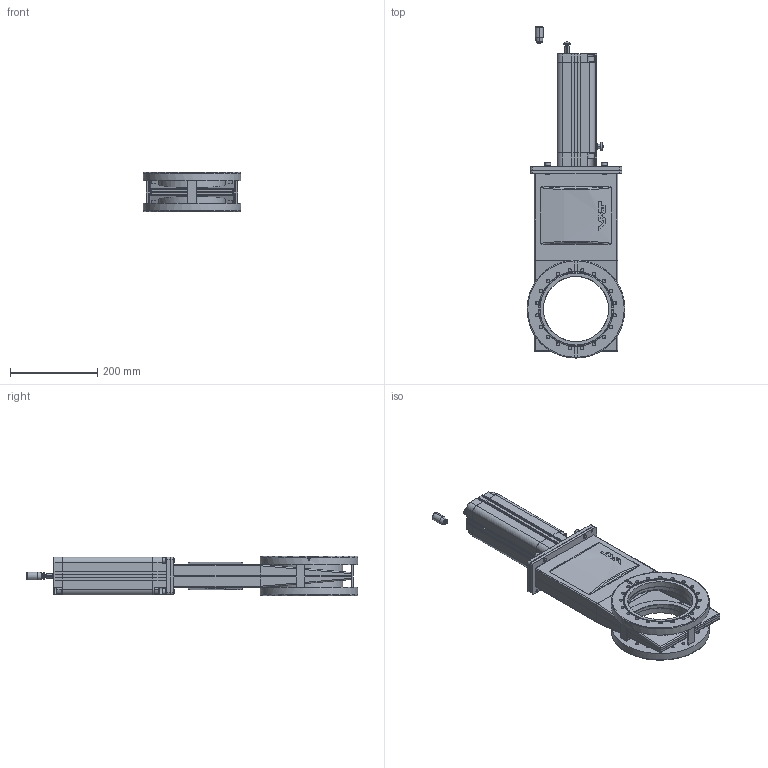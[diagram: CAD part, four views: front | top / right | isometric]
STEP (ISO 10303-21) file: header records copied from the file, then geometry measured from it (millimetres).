
FILE_DESCRIPTION(/* description */ (''),/* implementation_level */ '2;1');
FILE_NAME(/* name */ '1082409416_203.stp',/* time_stamp */ '2010-07-22T15:37:48+02:00',/* author */ (''),/* organization */ (''),/* preprocessor_version */ 'ST-DEVELOPER v11',/* originating_system */ 'SIEMENS UGS NX 6.0',/* authorisation */ '');
FILE_SCHEMA (('CONFIG_CONTROL_DESIGN'));
Length unit declared in the file: millimetre
Products named in the file (25): N-6092-118.1; 261336.1; n-6195-408; 228777; N-6066-009.1; 260826.1; N-6134-409.1; 332689.2; 259431.1; 261363.3; 261364.3; 261366.3; 255558.4; 309095.3; 261368.5; 301646.1; 307161.2; 261361.5; 261369.1; 309094.4; 255788.2; 255792.2; 255802.2; 261337.1; 309144.9
Assembly tree (38 placements, depth 3):
  309144.9
    255802.2  x2
    255792.2  x3
    255788.2  x2
    309094.4
    261369.1  x4
    261361.5
    307161.2
    301646.1
    261368.5
    261337.1
      261336.1
      N-6092-118.1  x2
    309095.3
    255558.4
    261366.3
    261364.3
    261363.3
    259431.1
    332689.2
    N-6134-409.1  x4
    260826.1
    N-6066-009.1
    228777  x4
    n-6195-408
Bounding box: 224.8 x 763.1 x 90 mm (x, y, z)
Volume: 2425105.1 mm3; surface area: 902260.5 mm2
Topology: 46 solids, 46 shells, 1626 faces, 4115 edges, 2691 vertices
Faces by surface type: plane 753, cylinder 534, bspline 197, cone 76, revolution 58, torus 4, sphere 4
Full cylindrical faces by diameter (mm): 1.7 x1, 2.2 x1, 3.17 x1, 4 x2, 4.976 x2, 4.985 x1, 5 x2, 5.124 x2, 5.22 x4, 5.3 x1, 6.66 x4, 6.7 x4, 6.8 x2, 6.9 x40, 7.7 x2, 7.938 x40, 7.976 x1, 8 x14, 8.4 x4, 8.5 x10, 9.976 x1, 10 x4, 10.008 x1, 11 x1, 13 x4, 13.586 x1, 13.626 x1, 15 x7, 15.2 x1, 15.4 x4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
Entity records: 53272 total; most frequent: CARTESIAN_POINT 20282, ORIENTED_EDGE 6038, DIRECTION 5889, EDGE_CURVE 3019, AXIS2_PLACEMENT_3D 2148, VERTEX_POINT 2121, EDGE_LOOP 1744, LINE 1565
